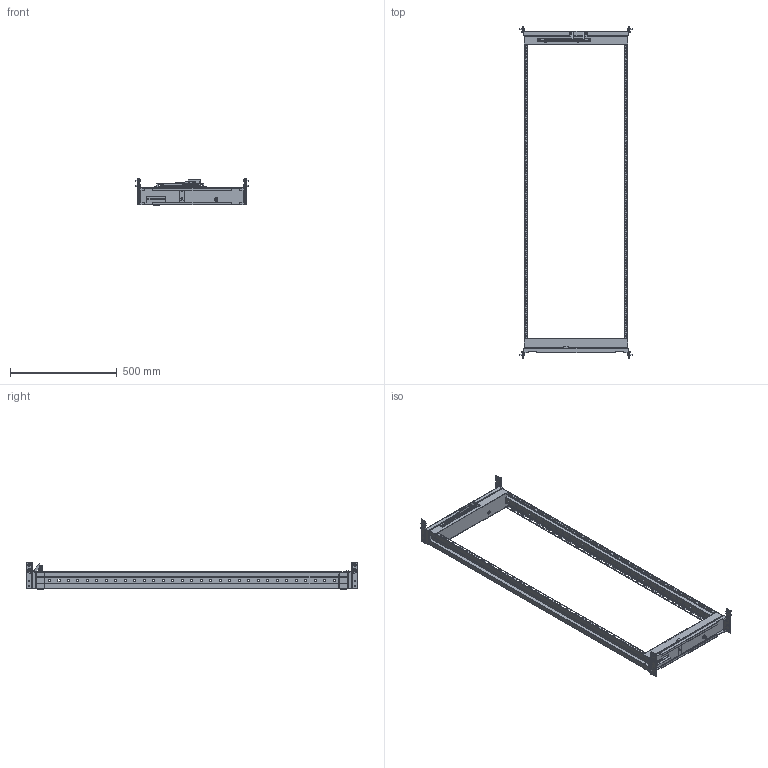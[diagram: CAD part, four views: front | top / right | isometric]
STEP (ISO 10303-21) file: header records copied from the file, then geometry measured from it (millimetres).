
FILE_DESCRIPTION(('Open CASCADE Model'),'2;1');
FILE_NAME('Open CASCADE Shape Model','2025-03-20T11:28:34',('Author'),( 'Open CASCADE'),'Open CASCADE STEP processor 7.8','Open CASCADE 7.8' ,'Unknown');
FILE_SCHEMA(('AUTOMOTIVE_DESIGN { 1 0 10303 214 1 1 1 1 }'));
Length unit declared in the file: millimetre
Products named in the file (29): Compound1; Compound2; Solid1; Solid2; Solid3; Compound3; Solid4; Solid5; Solid6; Solid7; Solid8; Solid9; Solid10; Solid11; Solid12; Solid13; Solid14; Solid15; Compound4; Solid16; Solid17; Solid18; Solid19; Solid20; Compound5; Solid21; Solid22; Solid23; Solid24
Assembly tree (48 placements, depth 3):
  Compound1
    Compound2
      Solid1
      Solid2  x2
      Solid3
    Compound3
      Solid4
      Solid2  x2
      Solid3
    Solid5  x2
    Solid6  x2
    Solid7
    Solid8
    Solid9
    Solid10
    Solid11
    Solid12
    Solid13  x2
    Solid14  x4
    Solid15  x8
    Compound4
      Solid16  x2
      Solid17
      Solid18  x2
      Solid19
      Solid20  x2
    Compound5
      Solid21
      Solid22
    Solid23
    Solid24
Bounding box: 526 x 1555 x 130.5 mm (x, y, z)
Volume: 1287839.3 mm3; surface area: 1620063.8 mm2
Topology: 44 solids, 64 shells, 4298 faces, 12395 edges, 8155 vertices
Faces by surface type: plane 3054, cylinder 598, cone 250, bspline 182, torus 156, sphere 58
Entity records: 82690 total; most frequent: CARTESIAN_POINT 21280, ORIENTED_EDGE 12944, DIRECTION 11506, EDGE_CURVE 6651, LINE 5176, VECTOR 5176, VERTEX_POINT 4408, AXIS2_PLACEMENT_3D 3165
